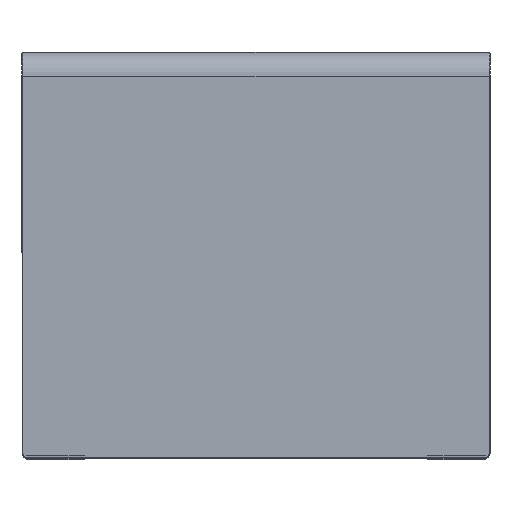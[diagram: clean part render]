
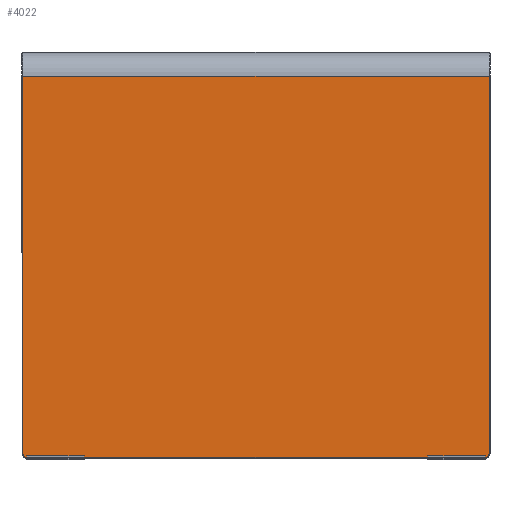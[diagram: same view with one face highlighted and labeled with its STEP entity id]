
A CAD part, left-side view. The second image highlights one B-rep face of the part: STEP entity #4022.
In plain terms, the highlighted planar face has unit normal (-1, 0, 0).
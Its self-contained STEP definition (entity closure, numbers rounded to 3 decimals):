
#3512=CARTESIAN_POINT('',(-277.5,-244.,-15.));
#3513=VERTEX_POINT('',#3512);
#3536=CARTESIAN_POINT('',(-277.5,-244.,-410.0));
#3537=VERTEX_POINT('',#3536);
#3553=CARTESIAN_POINT('',(-277.5,-244.,-15.));
#3554=DIRECTION('',(0.0,0.0,-1.0));
#3555=VECTOR('',#3554,395.);
#3556=LINE('',#3553,#3555);
#3557=EDGE_CURVE('',#3513,#3537,#3556,.T.);
#3567=CARTESIAN_POINT('',(-277.5,-240.,-414.));
#3568=VERTEX_POINT('',#3567);
#3583=CARTESIAN_POINT('',(-277.5,-240.,-410.0));
#3584=DIRECTION('',(1.0,0.,0.));
#3585=DIRECTION('',(0.,-0.707,-0.707));
#3586=AXIS2_PLACEMENT_3D('',#3583,#3584,#3585);
#3587=CIRCLE('',#3586,4.);
#3588=EDGE_CURVE('',#3537,#3568,#3587,.T.);
#3598=CARTESIAN_POINT('',(-277.5,240.0,-414.0));
#3599=VERTEX_POINT('',#3598);
#3615=CARTESIAN_POINT('',(-277.5,-240.,-414.));
#3616=DIRECTION('',(0.0,1.0,0.0));
#3617=VECTOR('',#3616,480.);
#3618=LINE('',#3615,#3617);
#3619=EDGE_CURVE('',#3568,#3599,#3618,.T.);
#3629=CARTESIAN_POINT('',(-277.5,244.,-410.));
#3630=VERTEX_POINT('',#3629);
#3647=CARTESIAN_POINT('',(-277.5,240.,-410.));
#3648=DIRECTION('',(1.0,0.,0.));
#3649=DIRECTION('',(0.,0.707,-0.707));
#3650=AXIS2_PLACEMENT_3D('',#3647,#3648,#3649);
#3651=CIRCLE('',#3650,4.);
#3652=EDGE_CURVE('',#3599,#3630,#3651,.T.);
#3662=CARTESIAN_POINT('',(-277.5,244.0,-15.));
#3663=VERTEX_POINT('',#3662);
#3679=CARTESIAN_POINT('',(-277.5,244.,-410.));
#3680=DIRECTION('',(0.0,0.0,1.0));
#3681=VECTOR('',#3680,395.);
#3682=LINE('',#3679,#3681);
#3683=EDGE_CURVE('',#3630,#3663,#3682,.T.);
#3917=CARTESIAN_POINT('',(-277.5,-244.,-15.));
#3918=DIRECTION('',(0.0,1.0,0.0));
#3919=VECTOR('',#3918,488.);
#3920=LINE('',#3917,#3919);
#3921=EDGE_CURVE('',#3513,#3663,#3920,.T.);
#4009=CARTESIAN_POINT('',(-277.5,0.,-199.763));
#4010=DIRECTION('',(-1.0,0.0,0.0));
#4011=DIRECTION('',(0.0,0.0,1.0));
#4012=AXIS2_PLACEMENT_3D('',#4009,#4010,#4011);
#4013=PLANE('',#4012);
#4014=ORIENTED_EDGE('',*,*,#3557,.F.);
#4015=ORIENTED_EDGE('',*,*,#3921,.T.);
#4016=ORIENTED_EDGE('',*,*,#3683,.F.);
#4017=ORIENTED_EDGE('',*,*,#3652,.F.);
#4018=ORIENTED_EDGE('',*,*,#3619,.F.);
#4019=ORIENTED_EDGE('',*,*,#3588,.F.);
#4020=EDGE_LOOP('',(#4014,#4015,#4016,#4017,#4018,#4019));
#4021=FACE_OUTER_BOUND('',#4020,.T.);
#4022=ADVANCED_FACE('',(#4021),#4013,.T.);
